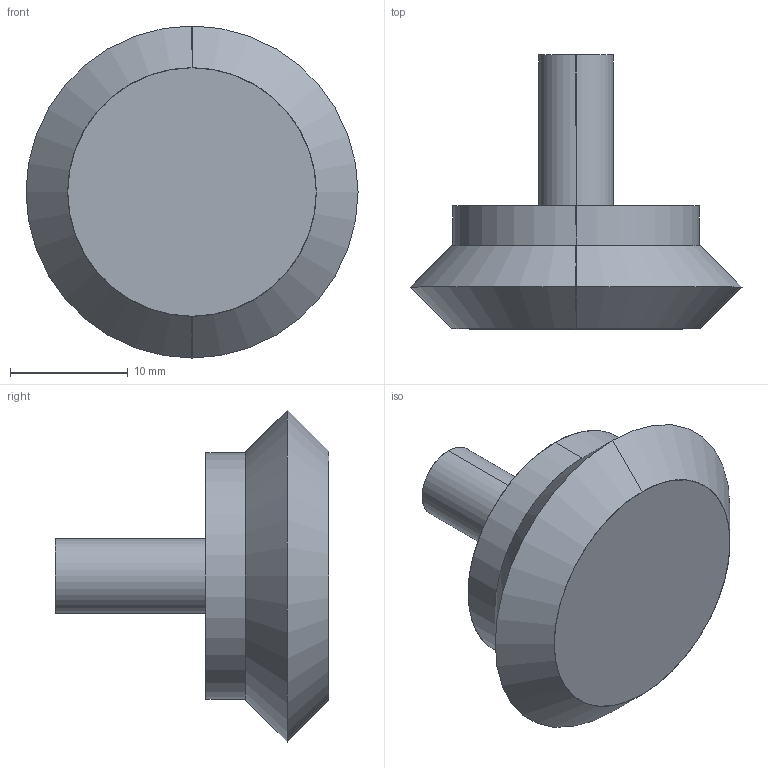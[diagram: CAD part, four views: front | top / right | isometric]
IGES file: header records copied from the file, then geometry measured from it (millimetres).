
Start section: SolidWorks IGES file using analytic representation for surfaces
Global section: file name: C:\Working\.5 Inch Coupling\DP Foot.IGS; native system: SolidWorks 2010; preprocessor: SolidWorks 2010; author: mbush2; date: 100812.102429; units: inch
Bounding box: 28.24 x 23.3 x 28.24 mm (x, y, z)
Surface area: 1958.5 mm2 (no closed solid volume)
Topology: 0 solids, 0 shells, 12 faces, 224 edges, 224 vertices
Faces by surface type: revolution 8, bspline 4
